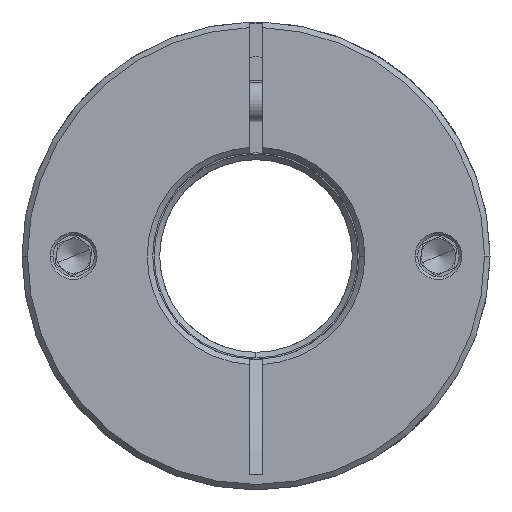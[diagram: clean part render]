
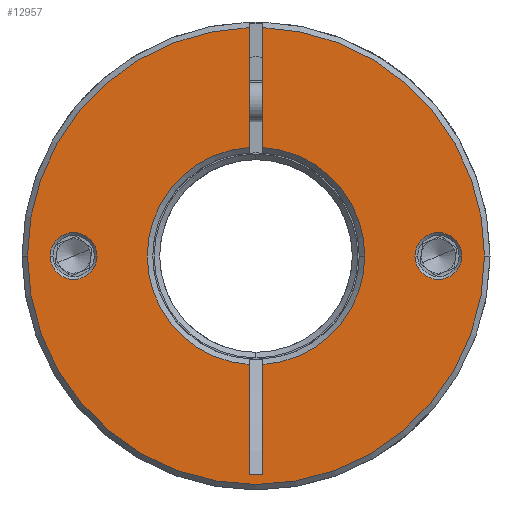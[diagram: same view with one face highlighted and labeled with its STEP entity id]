
A CAD part, front view. The second image highlights one B-rep face of the part: STEP entity #12957.
In plain terms, the highlighted planar face has unit normal (0, -1, 0).
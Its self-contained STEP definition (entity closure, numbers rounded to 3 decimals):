
#30 = ORIENTED_EDGE ( 'NONE', *, *, #11458, .T. ) ;
#350 = EDGE_LOOP ( 'NONE', ( #1705, #5046 ) ) ;
#379 = FACE_BOUND ( 'NONE', #350, .T. ) ;
#430 = DIRECTION ( 'NONE',  ( 0., 0., -1. ) ) ;
#456 = EDGE_CURVE ( 'NONE', #12326, #9355, #7439, .T. ) ;
#477 = AXIS2_PLACEMENT_3D ( 'NONE', #4619, #12853, #6683 ) ;
#573 = CARTESIAN_POINT ( 'NONE',  ( -1.735, -47.045, 83.768 ) ) ;
#875 = DIRECTION ( 'NONE',  ( 1., 0., 0. ) ) ;
#877 = FACE_BOUND ( 'NONE', #4827, .T. ) ;
#880 = CARTESIAN_POINT ( 'NONE',  ( 27.165, -47.045, 68. ) ) ;
#1039 = AXIS2_PLACEMENT_3D ( 'NONE', #1801, #8980, #10831 ) ;
#1182 = ORIENTED_EDGE ( 'NONE', *, *, #2018, .T. ) ;
#1317 = ORIENTED_EDGE ( 'NONE', *, *, #6780, .T. ) ;
#1551 = LINE ( 'NONE', #3472, #8459 ) ;
#1569 = CARTESIAN_POINT ( 'NONE',  ( -3.735, -47.045, 83.768 ) ) ;
#1705 = ORIENTED_EDGE ( 'NONE', *, *, #10942, .T. ) ;
#1755 = CARTESIAN_POINT ( 'NONE',  ( -3.735, -47.045, 36.279 ) ) ;
#1801 = CARTESIAN_POINT ( 'NONE',  ( -2.735, -47.045, 68. ) ) ;
#1855 = DIRECTION ( 'NONE',  ( 0., -1., 0. ) ) ;
#2018 = EDGE_CURVE ( 'NONE', #10495, #4556, #4105, .T. ) ;
#2020 = VERTEX_POINT ( 'NONE', #1755 ) ;
#2112 = EDGE_CURVE ( 'NONE', #11332, #6415, #4244, .T. ) ;
#2133 = DIRECTION ( 'NONE',  ( 0., 1., 0. ) ) ;
#2187 = AXIS2_PLACEMENT_3D ( 'NONE', #8896, #2762, #11997 ) ;
#2212 = CARTESIAN_POINT ( 'NONE',  ( -1.735, -47.045, 52.232 ) ) ;
#2231 = CARTESIAN_POINT ( 'NONE',  ( -35.935, -47.045, 68. ) ) ;
#2315 = ORIENTED_EDGE ( 'NONE', *, *, #8775, .F. ) ;
#2337 = DIRECTION ( 'NONE',  ( 0., 0., -1. ) ) ;
#2417 = DIRECTION ( 'NONE',  ( 1., 0., 0. ) ) ;
#2427 = ORIENTED_EDGE ( 'NONE', *, *, #456, .T. ) ;
#2434 = CARTESIAN_POINT ( 'NONE',  ( -1.735, -47.045, 101.185 ) ) ;
#2445 = VERTEX_POINT ( 'NONE', #2434 ) ;
#2453 = AXIS2_PLACEMENT_3D ( 'NONE', #3855, #10067, #9069 ) ;
#2473 = AXIS2_PLACEMENT_3D ( 'NONE', #11552, #5410, #12545 ) ;
#2636 = CARTESIAN_POINT ( 'NONE',  ( -1.735, -47.045, 68. ) ) ;
#2700 = LINE ( 'NONE', #11573, #13292 ) ;
#2762 = DIRECTION ( 'NONE',  ( 0., 1., 0. ) ) ;
#2909 = PLANE ( 'NONE',  #6733 ) ;
#2972 = DIRECTION ( 'NONE',  ( 1., 0., 0. ) ) ;
#2975 = CARTESIAN_POINT ( 'NONE',  ( -3.735, -47.045, 68. ) ) ;
#3100 = EDGE_LOOP ( 'NONE', ( #10611, #1182, #9948, #12694, #11016, #5713, #1317, #12052, #30, #2315, #10335 ) ) ;
#3339 = EDGE_CURVE ( 'NONE', #9355, #12326, #11558, .T. ) ;
#3340 = LINE ( 'NONE', #2975, #10920 ) ;
#3458 = AXIS2_PLACEMENT_3D ( 'NONE', #8298, #2133, #11380 ) ;
#3472 = CARTESIAN_POINT ( 'NONE',  ( -3.735, -47.045, 36.279 ) ) ;
#3797 = EDGE_CURVE ( 'NONE', #2445, #5060, #12184, .T. ) ;
#3810 = AXIS2_PLACEMENT_3D ( 'NONE', #12189, #1855, #875 ) ;
#3855 = CARTESIAN_POINT ( 'NONE',  ( -2.735, -47.045, 68. ) ) ;
#4105 = CIRCLE ( 'NONE', #2453, 33.2 ) ;
#4134 = VECTOR ( 'NONE', #430, 1000. ) ;
#4192 = EDGE_CURVE ( 'NONE', #10495, #4317, #2700, .T. ) ;
#4244 = CIRCLE ( 'NONE', #2187, 3.4 ) ;
#4317 = VERTEX_POINT ( 'NONE', #1569 ) ;
#4540 = CIRCLE ( 'NONE', #6992, 15.8 ) ;
#4542 = EDGE_CURVE ( 'NONE', #10330, #2445, #10173, .T. ) ;
#4556 = VERTEX_POINT ( 'NONE', #2231 ) ;
#4619 = CARTESIAN_POINT ( 'NONE',  ( 23.765, -47.045, 68. ) ) ;
#4631 = VERTEX_POINT ( 'NONE', #6269 ) ;
#4720 = LINE ( 'NONE', #6377, #5047 ) ;
#4827 = EDGE_LOOP ( 'NONE', ( #2427, #8755 ) ) ;
#4915 = CARTESIAN_POINT ( 'NONE',  ( 30.465, -47.045, 68. ) ) ;
#4944 = DIRECTION ( 'NONE',  ( 0., 1., 0. ) ) ;
#5046 = ORIENTED_EDGE ( 'NONE', *, *, #2112, .T. ) ;
#5047 = VECTOR ( 'NONE', #5483, 1000. ) ;
#5060 = VERTEX_POINT ( 'NONE', #573 ) ;
#5102 = CIRCLE ( 'NONE', #1039, 15.8 ) ;
#5106 = DIRECTION ( 'NONE',  ( 0., -1., 0. ) ) ;
#5377 = CARTESIAN_POINT ( 'NONE',  ( -2.735, -47.045, 68. ) ) ;
#5410 = DIRECTION ( 'NONE',  ( 0., 1., 0. ) ) ;
#5483 = DIRECTION ( 'NONE',  ( 0., 0., -1. ) ) ;
#5485 = EDGE_CURVE ( 'NONE', #5060, #4631, #6973, .T. ) ;
#5713 = ORIENTED_EDGE ( 'NONE', *, *, #5485, .T. ) ;
#6182 = EDGE_CURVE ( 'NONE', #11804, #4317, #5102, .T. ) ;
#6269 = CARTESIAN_POINT ( 'NONE',  ( 13.065, -47.045, 68. ) ) ;
#6291 = CARTESIAN_POINT ( 'NONE',  ( -32.635, -47.045, 68. ) ) ;
#6377 = CARTESIAN_POINT ( 'NONE',  ( -1.735, -47.045, 68. ) ) ;
#6397 = CARTESIAN_POINT ( 'NONE',  ( -25.835, -47.045, 68. ) ) ;
#6415 = VERTEX_POINT ( 'NONE', #6397 ) ;
#6504 = DIRECTION ( 'NONE',  ( -1., 0., 0. ) ) ;
#6579 = DIRECTION ( 'NONE',  ( 0., 1., 0. ) ) ;
#6683 = DIRECTION ( 'NONE',  ( 1., 0., 0. ) ) ;
#6733 = AXIS2_PLACEMENT_3D ( 'NONE', #8177, #5106, #10142 ) ;
#6780 = EDGE_CURVE ( 'NONE', #4631, #8803, #4540, .T. ) ;
#6973 = CIRCLE ( 'NONE', #10567, 15.8 ) ;
#6992 = AXIS2_PLACEMENT_3D ( 'NONE', #9029, #4944, #2972 ) ;
#7201 = CIRCLE ( 'NONE', #2473, 3.4 ) ;
#7439 = CIRCLE ( 'NONE', #3458, 3.4 ) ;
#8175 = CARTESIAN_POINT ( 'NONE',  ( -3.735, -47.045, 101.185 ) ) ;
#8177 = CARTESIAN_POINT ( 'NONE',  ( -2.735, -47.045, 68. ) ) ;
#8298 = CARTESIAN_POINT ( 'NONE',  ( 23.765, -47.045, 68. ) ) ;
#8307 = DIRECTION ( 'NONE',  ( 0., -1., 0. ) ) ;
#8343 = DIRECTION ( 'NONE',  ( 1., 0., 0. ) ) ;
#8459 = VECTOR ( 'NONE', #6504, 1000. ) ;
#8590 = AXIS2_PLACEMENT_3D ( 'NONE', #5377, #8307, #8343 ) ;
#8755 = ORIENTED_EDGE ( 'NONE', *, *, #3339, .T. ) ;
#8775 = EDGE_CURVE ( 'NONE', #11804, #2020, #3340, .T. ) ;
#8803 = VERTEX_POINT ( 'NONE', #2212 ) ;
#8816 = CARTESIAN_POINT ( 'NONE',  ( 20.365, -47.045, 68. ) ) ;
#8896 = CARTESIAN_POINT ( 'NONE',  ( -29.235, -47.045, 68. ) ) ;
#8980 = DIRECTION ( 'NONE',  ( 0., 1., 0. ) ) ;
#9029 = CARTESIAN_POINT ( 'NONE',  ( -2.735, -47.045, 68. ) ) ;
#9069 = DIRECTION ( 'NONE',  ( 1., 0., 0. ) ) ;
#9096 = CARTESIAN_POINT ( 'NONE',  ( -1.735, -47.045, 36.279 ) ) ;
#9355 = VERTEX_POINT ( 'NONE', #8816 ) ;
#9485 = EDGE_CURVE ( 'NONE', #4556, #10330, #11537, .T. ) ;
#9948 = ORIENTED_EDGE ( 'NONE', *, *, #9485, .T. ) ;
#10067 = DIRECTION ( 'NONE',  ( 0., -1., 0. ) ) ;
#10142 = DIRECTION ( 'NONE',  ( 1., 0., 0. ) ) ;
#10144 = CARTESIAN_POINT ( 'NONE',  ( -3.735, -47.045, 52.232 ) ) ;
#10173 = CIRCLE ( 'NONE', #8590, 33.2 ) ;
#10330 = VERTEX_POINT ( 'NONE', #4915 ) ;
#10335 = ORIENTED_EDGE ( 'NONE', *, *, #6182, .T. ) ;
#10495 = VERTEX_POINT ( 'NONE', #8175 ) ;
#10567 = AXIS2_PLACEMENT_3D ( 'NONE', #11692, #6579, #2417 ) ;
#10611 = ORIENTED_EDGE ( 'NONE', *, *, #4192, .F. ) ;
#10831 = DIRECTION ( 'NONE',  ( 1., 0., 0. ) ) ;
#10920 = VECTOR ( 'NONE', #12349, 1000. ) ;
#10942 = EDGE_CURVE ( 'NONE', #6415, #11332, #7201, .T. ) ;
#11016 = ORIENTED_EDGE ( 'NONE', *, *, #3797, .T. ) ;
#11310 = FACE_OUTER_BOUND ( 'NONE', #3100, .T. ) ;
#11332 = VERTEX_POINT ( 'NONE', #6291 ) ;
#11380 = DIRECTION ( 'NONE',  ( 1., 0., 0. ) ) ;
#11458 = EDGE_CURVE ( 'NONE', #12985, #2020, #1551, .T. ) ;
#11537 = CIRCLE ( 'NONE', #3810, 33.2 ) ;
#11552 = CARTESIAN_POINT ( 'NONE',  ( -29.235, -47.045, 68. ) ) ;
#11558 = CIRCLE ( 'NONE', #477, 3.4 ) ;
#11573 = CARTESIAN_POINT ( 'NONE',  ( -3.735, -47.045, 68. ) ) ;
#11692 = CARTESIAN_POINT ( 'NONE',  ( -2.735, -47.045, 68. ) ) ;
#11804 = VERTEX_POINT ( 'NONE', #10144 ) ;
#11997 = DIRECTION ( 'NONE',  ( 1., 0., 0. ) ) ;
#12052 = ORIENTED_EDGE ( 'NONE', *, *, #12632, .T. ) ;
#12184 = LINE ( 'NONE', #2636, #4134 ) ;
#12189 = CARTESIAN_POINT ( 'NONE',  ( -2.735, -47.045, 68. ) ) ;
#12326 = VERTEX_POINT ( 'NONE', #880 ) ;
#12349 = DIRECTION ( 'NONE',  ( 0., 0., -1. ) ) ;
#12545 = DIRECTION ( 'NONE',  ( 1., 0., 0. ) ) ;
#12632 = EDGE_CURVE ( 'NONE', #8803, #12985, #4720, .T. ) ;
#12694 = ORIENTED_EDGE ( 'NONE', *, *, #4542, .T. ) ;
#12853 = DIRECTION ( 'NONE',  ( 0., 1., 0. ) ) ;
#12957 = ADVANCED_FACE ( 'NONE', ( #877, #379, #11310 ), #2909, .T. ) ;
#12985 = VERTEX_POINT ( 'NONE', #9096 ) ;
#13292 = VECTOR ( 'NONE', #2337, 1000. ) ;
